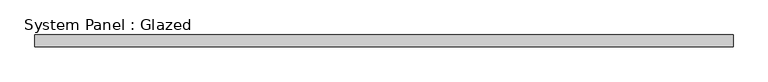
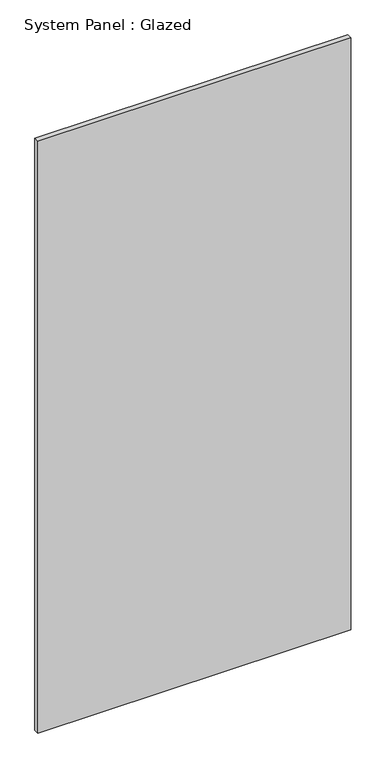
"""IFC4 building model written with IfcOpenShell, lengths in millimetres: plate geometry, System Panel : Glazed."""

from ifc_helpers import new_model, si_unit, origin, origin_with_axes, place, context, project, spatial, polyline, outline, extrude, source, transform, mapped, element, save


def system_panel_glazed_176abec3(model_context):
    return source(origin(), model_context, "Body", "SweptSolid", [
        extrude(outline(polyline([(755.65, -44.45), (-755.65, -44.45), (-755.65, -19.05), (755.65, -19.05), (755.65, -44.45)])), origin_with_axes(), (0.0, 0.0, 1.0), 3022.6),
    ])


if __name__ == "__main__":
    model = new_model("IFC4")
    model_context = context("Model", 3, world=origin())
    ifc_project = project(units=[si_unit("LENGTHUNIT", "METRE", prefix="MILLI")], contexts=[model_context])
    site = spatial("IfcSite", under=ifc_project)
    building = spatial("IfcBuilding", under=site)
    placement = place(None, origin())
    system_panel_glazed_shape = system_panel_glazed_176abec3(model_context)
    element("IfcPlate", 1, ObjectType="System Panel : Glazed", at=placement, inside=building, context=model_context, shape_type="MappedRepresentation", body=[
        mapped(system_panel_glazed_shape, transform((0.0, 0.0, 0.0), x_axis=(1.0, 0.0, 0.0), y_axis=(0.0, 1.0, 0.0), z_axis=(0.0, 0.0, 1.0))),
    ])
    save(model, "model.ifc")
